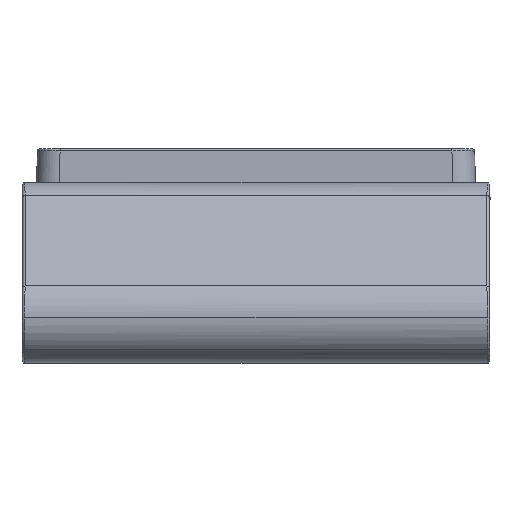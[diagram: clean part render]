
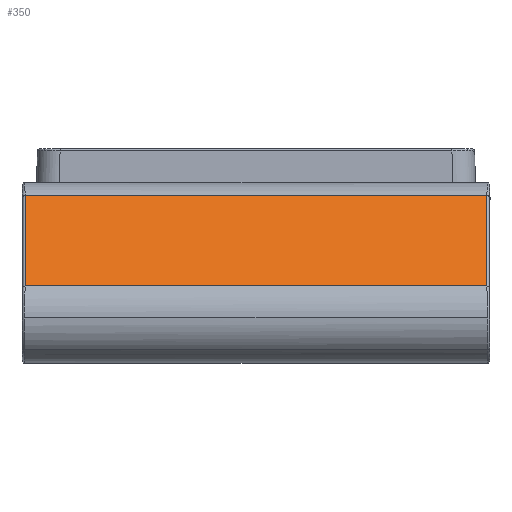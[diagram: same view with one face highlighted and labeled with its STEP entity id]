
A CAD part, top view. The second image highlights one B-rep face of the part: STEP entity #350.
In plain terms, the highlighted planar face has unit normal (0, 0.707, 0.707).
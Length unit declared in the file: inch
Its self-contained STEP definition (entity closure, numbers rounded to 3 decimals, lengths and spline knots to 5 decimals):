
#350 = ADVANCED_FACE ( 'NONE', ( #24259 ), #52287, .T. ) ;
#3860 = ORIENTED_EDGE ( 'NONE', *, *, #16377, .T. ) ;
#8773 = CARTESIAN_POINT ( 'NONE',  ( -1.20749, -0.30541, 0.63947 ) ) ;
#9504 = ORIENTED_EDGE ( 'NONE', *, *, #20537, .T. ) ;
#10193 = VECTOR ( 'NONE', #24293, 39.37008 ) ;
#10955 = CARTESIAN_POINT ( 'NONE',  ( -1.20749, 0.16703, 0.16703 ) ) ;
#11459 = DIRECTION ( 'NONE',  ( 0., -0.707, 0.707 ) ) ;
#12797 = LINE ( 'NONE', #52736, #53140 ) ;
#13736 = EDGE_CURVE ( 'NONE', #19140, #63634, #12797, .T. ) ;
#15663 = DIRECTION ( 'NONE',  ( -1., 0., 0. ) ) ;
#16377 = EDGE_CURVE ( 'NONE', #63634, #35966, #25510, .T. ) ;
#19140 = VERTEX_POINT ( 'NONE', #30701 ) ;
#20181 = LINE ( 'NONE', #26878, #49204 ) ;
#20537 = EDGE_CURVE ( 'NONE', #57953, #19140, #20181, .T. ) ;
#21324 = ORIENTED_EDGE ( 'NONE', *, *, #45824, .F. ) ;
#22731 = CARTESIAN_POINT ( 'NONE',  ( -1.20749, -0.30541, 0.63947 ) ) ;
#24259 = FACE_OUTER_BOUND ( 'NONE', #43758, .T. ) ;
#24293 = DIRECTION ( 'NONE',  ( 0., -0.707, 0.707 ) ) ;
#25510 = LINE ( 'NONE', #8773, #10193 ) ;
#26878 = CARTESIAN_POINT ( 'NONE',  ( 1.20749, -0.30541, 0.63947 ) ) ;
#27677 = DIRECTION ( 'NONE',  ( -1., 0., 0. ) ) ;
#27992 = DIRECTION ( 'NONE',  ( 0., 0.707, -0.707 ) ) ;
#30701 = CARTESIAN_POINT ( 'NONE',  ( 1.20749, 0.16703, 0.16703 ) ) ;
#31410 = CARTESIAN_POINT ( 'NONE',  ( 1.22047, -0.30541, 0.63947 ) ) ;
#32408 = CARTESIAN_POINT ( 'NONE',  ( 1.22047, -0.30541, 0.63947 ) ) ;
#35966 = VERTEX_POINT ( 'NONE', #22731 ) ;
#37399 = DIRECTION ( 'NONE',  ( 0., 0.707, 0.707 ) ) ;
#38876 = CARTESIAN_POINT ( 'NONE',  ( 1.20749, -0.30541, 0.63947 ) ) ;
#43758 = EDGE_LOOP ( 'NONE', ( #56794, #3860, #21324, #9504 ) ) ;
#45824 = EDGE_CURVE ( 'NONE', #57953, #35966, #64320, .T. ) ;
#49204 = VECTOR ( 'NONE', #27992, 39.37008 ) ;
#52287 = PLANE ( 'NONE',  #60877 ) ;
#52736 = CARTESIAN_POINT ( 'NONE',  ( 1.22047, 0.16703, 0.16703 ) ) ;
#53014 = VECTOR ( 'NONE', #15663, 39.37008 ) ;
#53140 = VECTOR ( 'NONE', #27677, 39.37008 ) ;
#56794 = ORIENTED_EDGE ( 'NONE', *, *, #13736, .T. ) ;
#57953 = VERTEX_POINT ( 'NONE', #38876 ) ;
#60877 = AXIS2_PLACEMENT_3D ( 'NONE', #32408, #37399, #11459 ) ;
#63634 = VERTEX_POINT ( 'NONE', #10955 ) ;
#64320 = LINE ( 'NONE', #31410, #53014 ) ;
